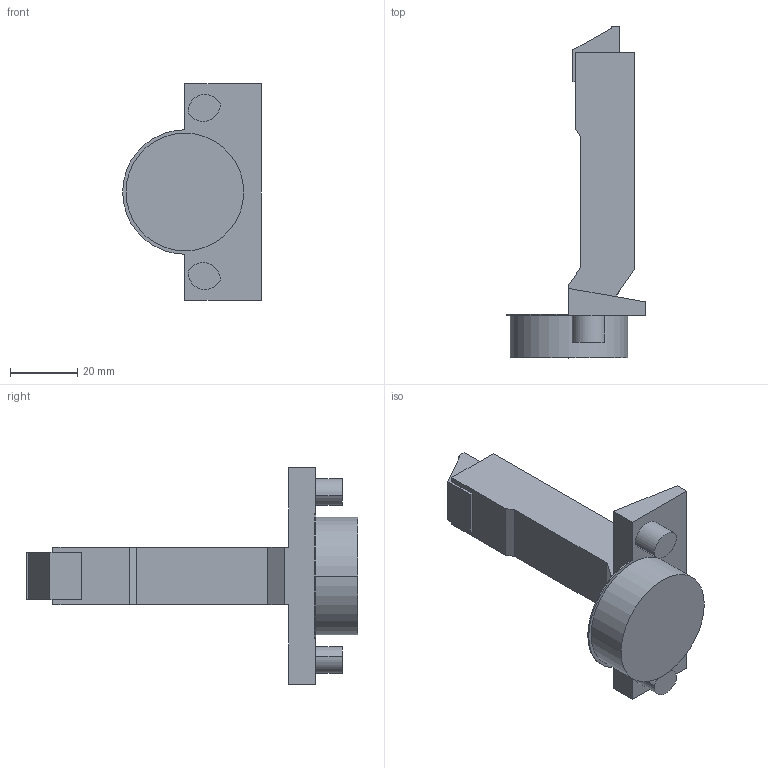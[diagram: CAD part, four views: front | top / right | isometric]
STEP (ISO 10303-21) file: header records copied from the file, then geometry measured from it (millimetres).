
FILE_DESCRIPTION (( 'STEP AP214' ), '1' );
FILE_NAME ('Scharnier TS Impresso 110° HS_BB, K00.step', '2018-09-12T09:11:24', ( '' ), ( '' ), 'SwSTEP 2.0', 'SolidWorks 2017', '' );
FILE_SCHEMA (( 'AUTOMOTIVE_DESIGN' ));
Length unit declared in the file: millimetre
Products named in the file (1): Scharnier TS Impresso 110° HS_BB, K00
Bounding box: 41.25 x 98.7 x 64.5 mm (x, y, z)
Volume: 42993.4 mm3; surface area: 12204.5 mm2
Topology: 1 solids, 1 shells, 48 faces, 120 edges, 80 vertices
Faces by surface type: plane 33, cylinder 15
Entity records: 1468 total; most frequent: CARTESIAN_POINT 249, DIRECTION 248, ORIENTED_EDGE 240, EDGE_CURVE 120, LINE 90, VECTOR 90, VERTEX_POINT 80, AXIS2_PLACEMENT_3D 79
